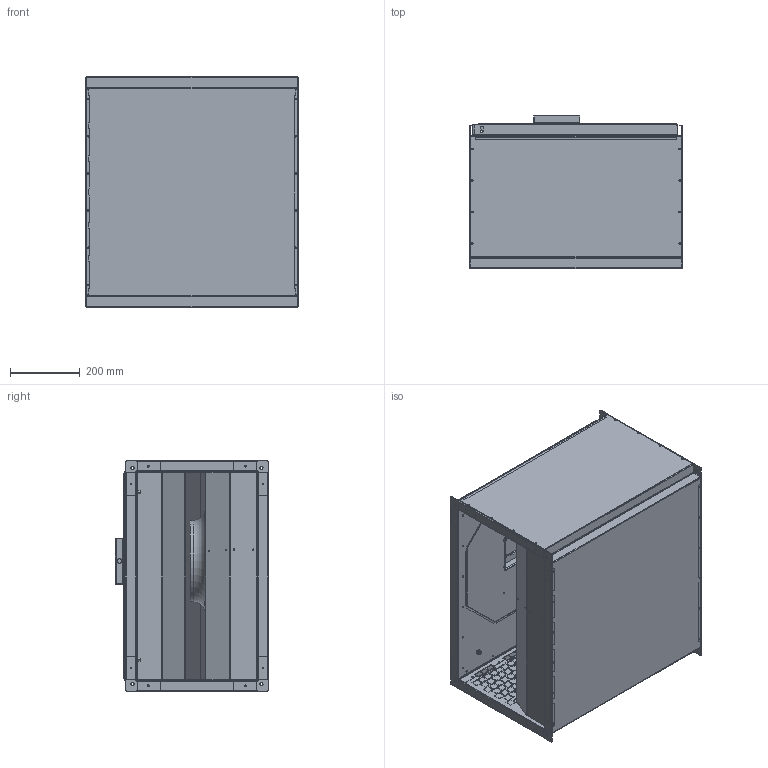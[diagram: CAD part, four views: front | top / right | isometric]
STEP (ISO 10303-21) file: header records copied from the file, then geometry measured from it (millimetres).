
FILE_DESCRIPTION (( 'STEP AP203' ), '1' );
FILE_NAME ('131401-00_KVRI06035E430.STEP', '2015-05-11T10:09:54', ( '' ), ( '' ), 'SwSTEP 2.0', 'SolidWorks 2012', '' );
FILE_SCHEMA (( 'CONFIG_CONTROL_DESIGN' ));
Products named in the file (1): 131401-00_KVRI06035E430
Bounding box: 610 x 440.5 x 662 mm (x, y, z)
Surface area: 5176143.9 mm2 (no closed solid volume)
Topology: 0 solids, 83 shells, 1746 faces, 14463 edges, 12224 vertices
Faces by surface type: plane 1258, cylinder 461, torus 12, bspline 11, cone 4
Entity records: 137828 total; most frequent: CARTESIAN_POINT 29916, DIRECTION 19448, ORIENTED_EDGE 18203, EDGE_CURVE 14463, LINE 12708, VECTOR 12708, VERTEX_POINT 12224, EDGE_LOOP 4689
